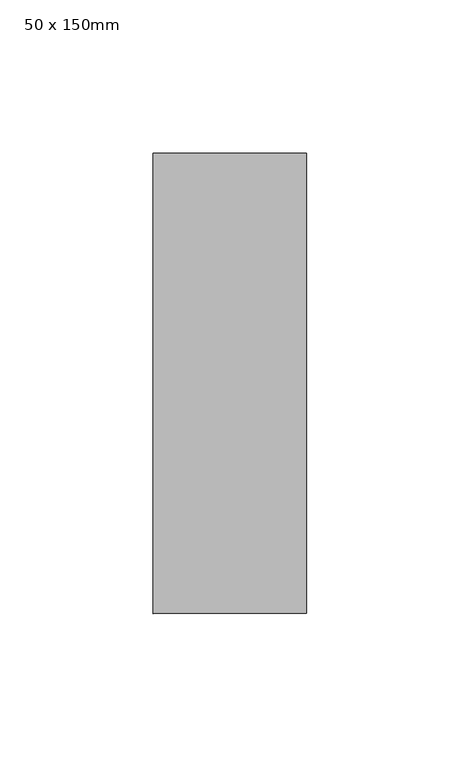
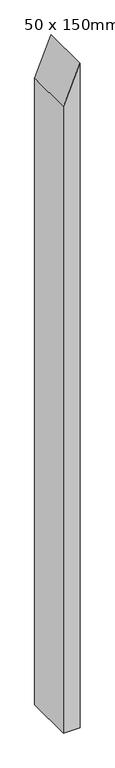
"""IFC4 building model written with IfcOpenShell, lengths in millimetres: member geometry, Prostokątny szpros : 50 x 150mm."""

from ifc_helpers import new_model, si_unit, frame, origin, place, context, project, spatial, polyline, outline, extrude, source, transform, mapped, element, save


def member_50_x_150mm_e9ac50f0(model_context):
    return source(origin(), model_context, "Body", "SweptSolid", [
        extrude(outline(polyline([(0.0, 0.0), (-120.7106781, -50.0), (-2121.4466096, -50.0), (-2121.4466096, 0.0), (0.0, 0.0)])), frame((0.0, -75.0, 0.0), z_axis=(0.0, 1.0, 0.0), x_axis=(0.0, 0.0, 1.0)), (0.0, 0.0, 1.0), 150.0),
    ])


if __name__ == "__main__":
    model = new_model("IFC4")
    model_context = context("Model", 3, world=origin())
    ifc_project = project(units=[si_unit("LENGTHUNIT", "METRE", prefix="MILLI")], contexts=[model_context])
    site = spatial("IfcSite", under=ifc_project)
    building = spatial("IfcBuilding", under=site)
    placement = place(None, origin())
    member_50_x_150mm_shape = member_50_x_150mm_e9ac50f0(model_context)
    element("IfcMember", 1, ObjectType="Prostokątny szpros : 50 x 150mm", at=placement, inside=building, context=model_context, shape_type="MappedRepresentation", body=[
        mapped(member_50_x_150mm_shape, transform((0.0, 0.0, 0.0), x_axis=(1.0, 0.0, 0.0), y_axis=(0.0, 1.0, 0.0), z_axis=(0.0, 0.0, 1.0))),
    ])
    save(model, "model.ifc")
